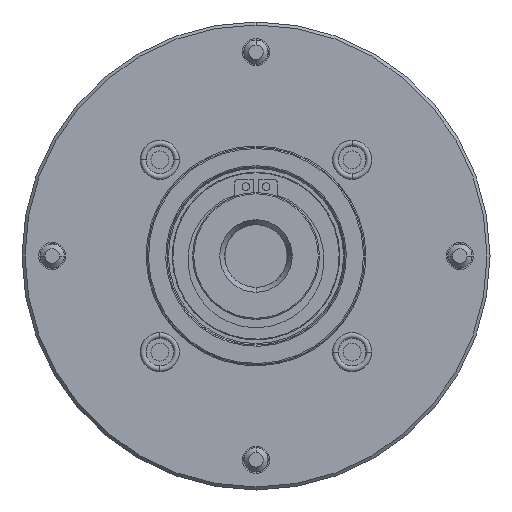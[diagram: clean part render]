
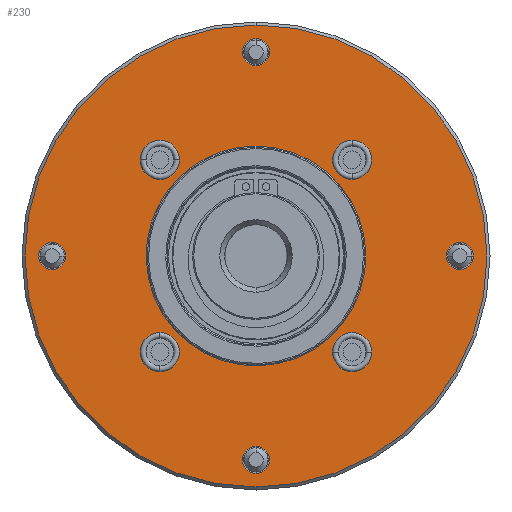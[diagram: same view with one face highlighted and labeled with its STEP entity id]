
A CAD part, front view. The second image highlights one B-rep face of the part: STEP entity #230.
In plain terms, the highlighted planar face has unit normal (0, -1, 0).
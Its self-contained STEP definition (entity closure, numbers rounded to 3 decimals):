
#16=CARTESIAN_POINT('',(0.0,2.5,36.4));
#17=VERTEX_POINT('',#16);
#18=CARTESIAN_POINT('',(34.618,2.5,-11.248));
#19=VERTEX_POINT('',#18);
#20=CARTESIAN_POINT('',(0.0,2.5,0.0));
#21=DIRECTION('',(0.0,1.0,0.0));
#22=DIRECTION('',(0.0,0.0,1.0));
#23=AXIS2_PLACEMENT_3D('',#20,#21,#22);
#24=CIRCLE('',#23,36.4);
#25=EDGE_CURVE('no 625',#17,#19,#24,.T.);
#26=ORIENTED_EDGE('',*,*,#25,.T.);
#27=CARTESIAN_POINT('',(-34.618,2.5,11.248));
#28=VERTEX_POINT('',#27);
#29=CARTESIAN_POINT('',(0.0,2.5,0.0));
#30=DIRECTION('',(0.0,1.0,0.0));
#31=DIRECTION('',(0.0,0.0,1.0));
#32=AXIS2_PLACEMENT_3D('',#29,#30,#31);
#33=CIRCLE('',#32,36.4);
#34=EDGE_CURVE('no 631',#19,#28,#33,.T.);
#35=ORIENTED_EDGE('',*,*,#34,.T.);
#36=CARTESIAN_POINT('',(0.0,2.5,0.0));
#37=DIRECTION('',(0.0,1.0,0.0));
#38=DIRECTION('',(0.0,0.0,1.0));
#39=AXIS2_PLACEMENT_3D('',#36,#37,#38);
#40=CIRCLE('',#39,36.4);
#41=EDGE_CURVE('no 635',#28,#17,#40,.T.);
#42=ORIENTED_EDGE('',*,*,#41,.T.);
#43=EDGE_LOOP('',(#26,#35,#42));
#44=FACE_BOUND('',#43,.T.);
#45=CARTESIAN_POINT('',(0.0,2.5,76.5));
#46=VERTEX_POINT('',#45);
#47=CARTESIAN_POINT('',(0.0,2.5,-76.5));
#48=VERTEX_POINT('',#47);
#49=CARTESIAN_POINT('',(0.0,2.5,0.0));
#50=DIRECTION('',(0.0,-1.0,0.0));
#51=DIRECTION('',(0.0,0.0,1.0));
#52=AXIS2_PLACEMENT_3D('',#49,#50,#51);
#53=CIRCLE('',#52,76.5);
#54=EDGE_CURVE('no 644',#46,#48,#53,.T.);
#55=ORIENTED_EDGE('',*,*,#54,.T.);
#56=CARTESIAN_POINT('',(0.0,2.5,0.0));
#57=DIRECTION('',(0.0,-1.0,0.0));
#58=DIRECTION('',(0.0,0.0,1.0));
#59=AXIS2_PLACEMENT_3D('',#56,#57,#58);
#60=CIRCLE('',#59,76.5);
#61=EDGE_CURVE('no 648',#48,#46,#60,.T.);
#62=ORIENTED_EDGE('',*,*,#61,.T.);
#63=EDGE_LOOP('',(#55,#62));
#64=FACE_OUTER_BOUND('',#63,.T.);
#65=CARTESIAN_POINT('',(-31.82,2.5,-25.32));
#66=VERTEX_POINT('',#65);
#67=CARTESIAN_POINT('',(-31.82,2.5,-38.32));
#68=VERTEX_POINT('',#67);
#69=CARTESIAN_POINT('',(-31.82,2.5,-31.82));
#70=DIRECTION('',(0.0,-1.0,0.0));
#71=DIRECTION('',(0.0,0.0,-1.0));
#72=AXIS2_PLACEMENT_3D('',#69,#70,#71);
#73=CIRCLE('',#72,6.5);
#74=EDGE_CURVE('no 657',#66,#68,#73,.T.);
#75=ORIENTED_EDGE('',*,*,#74,.F.);
#76=CARTESIAN_POINT('',(-31.82,2.5,-31.82));
#77=DIRECTION('',(0.0,-1.0,0.0));
#78=DIRECTION('',(0.0,0.0,-1.0));
#79=AXIS2_PLACEMENT_3D('',#76,#77,#78);
#80=CIRCLE('',#79,6.5);
#81=EDGE_CURVE('no 661',#68,#66,#80,.T.);
#82=ORIENTED_EDGE('',*,*,#81,.F.);
#83=EDGE_LOOP('',(#75,#82));
#84=FACE_BOUND('',#83,.T.);
#85=CARTESIAN_POINT('',(-31.82,2.5,38.32));
#86=VERTEX_POINT('',#85);
#87=CARTESIAN_POINT('',(-31.82,2.5,25.32));
#88=VERTEX_POINT('',#87);
#89=CARTESIAN_POINT('',(-31.82,2.5,31.82));
#90=DIRECTION('',(0.0,-1.0,0.0));
#91=DIRECTION('',(0.0,0.0,-1.0));
#92=AXIS2_PLACEMENT_3D('',#89,#90,#91);
#93=CIRCLE('',#92,6.5);
#94=EDGE_CURVE('no 670',#86,#88,#93,.T.);
#95=ORIENTED_EDGE('',*,*,#94,.F.);
#96=CARTESIAN_POINT('',(-31.82,2.5,31.82));
#97=DIRECTION('',(0.0,-1.0,0.0));
#98=DIRECTION('',(0.0,0.0,-1.0));
#99=AXIS2_PLACEMENT_3D('',#96,#97,#98);
#100=CIRCLE('',#99,6.5);
#101=EDGE_CURVE('no 674',#88,#86,#100,.T.);
#102=ORIENTED_EDGE('',*,*,#101,.F.);
#103=EDGE_LOOP('',(#95,#102));
#104=FACE_BOUND('',#103,.T.);
#105=CARTESIAN_POINT('',(31.82,2.5,38.32));
#106=VERTEX_POINT('',#105);
#107=CARTESIAN_POINT('',(31.82,2.5,25.32));
#108=VERTEX_POINT('',#107);
#109=CARTESIAN_POINT('',(31.82,2.5,31.82));
#110=DIRECTION('',(0.0,-1.0,0.0));
#111=DIRECTION('',(0.0,0.0,-1.0));
#112=AXIS2_PLACEMENT_3D('',#109,#110,#111);
#113=CIRCLE('',#112,6.5);
#114=EDGE_CURVE('no 683',#106,#108,#113,.T.);
#115=ORIENTED_EDGE('',*,*,#114,.F.);
#116=CARTESIAN_POINT('',(31.82,2.5,31.82));
#117=DIRECTION('',(0.0,-1.0,0.0));
#118=DIRECTION('',(0.0,0.0,-1.0));
#119=AXIS2_PLACEMENT_3D('',#116,#117,#118);
#120=CIRCLE('',#119,6.5);
#121=EDGE_CURVE('no 687',#108,#106,#120,.T.);
#122=ORIENTED_EDGE('',*,*,#121,.F.);
#123=EDGE_LOOP('',(#115,#122));
#124=FACE_BOUND('',#123,.T.);
#125=CARTESIAN_POINT('',(-67.5,2.5,4.5));
#126=VERTEX_POINT('',#125);
#127=CARTESIAN_POINT('',(-67.5,2.5,-4.5));
#128=VERTEX_POINT('',#127);
#129=CARTESIAN_POINT('',(-67.5,2.5,0.0));
#130=DIRECTION('',(0.0,-1.0,0.0));
#131=DIRECTION('',(0.0,0.0,-1.0));
#132=AXIS2_PLACEMENT_3D('',#129,#130,#131);
#133=CIRCLE('',#132,4.5);
#134=EDGE_CURVE('no 696',#126,#128,#133,.T.);
#135=ORIENTED_EDGE('',*,*,#134,.F.);
#136=CARTESIAN_POINT('',(-67.5,2.5,0.0));
#137=DIRECTION('',(0.0,-1.0,0.0));
#138=DIRECTION('',(0.0,0.0,-1.0));
#139=AXIS2_PLACEMENT_3D('',#136,#137,#138);
#140=CIRCLE('',#139,4.5);
#141=EDGE_CURVE('no 700',#128,#126,#140,.T.);
#142=ORIENTED_EDGE('',*,*,#141,.F.);
#143=EDGE_LOOP('',(#135,#142));
#144=FACE_BOUND('',#143,.T.);
#145=CARTESIAN_POINT('',(0.0,2.5,72.0));
#146=VERTEX_POINT('',#145);
#147=CARTESIAN_POINT('',(0.0,2.5,63.0));
#148=VERTEX_POINT('',#147);
#149=CARTESIAN_POINT('',(0.0,2.5,67.5));
#150=DIRECTION('',(0.0,-1.0,0.0));
#151=DIRECTION('',(0.0,0.0,-1.0));
#152=AXIS2_PLACEMENT_3D('',#149,#150,#151);
#153=CIRCLE('',#152,4.5);
#154=EDGE_CURVE('no 709',#146,#148,#153,.T.);
#155=ORIENTED_EDGE('',*,*,#154,.F.);
#156=CARTESIAN_POINT('',(0.0,2.5,67.5));
#157=DIRECTION('',(0.0,-1.0,0.0));
#158=DIRECTION('',(0.0,0.0,-1.0));
#159=AXIS2_PLACEMENT_3D('',#156,#157,#158);
#160=CIRCLE('',#159,4.5);
#161=EDGE_CURVE('no 713',#148,#146,#160,.T.);
#162=ORIENTED_EDGE('',*,*,#161,.F.);
#163=EDGE_LOOP('',(#155,#162));
#164=FACE_BOUND('',#163,.T.);
#165=CARTESIAN_POINT('',(0.0,2.5,-63.0));
#166=VERTEX_POINT('',#165);
#167=CARTESIAN_POINT('',(0.0,2.5,-72.0));
#168=VERTEX_POINT('',#167);
#169=CARTESIAN_POINT('',(0.0,2.5,-67.5));
#170=DIRECTION('',(0.0,-1.0,0.0));
#171=DIRECTION('',(0.0,0.0,-1.0));
#172=AXIS2_PLACEMENT_3D('',#169,#170,#171);
#173=CIRCLE('',#172,4.5);
#174=EDGE_CURVE('no 722',#166,#168,#173,.T.);
#175=ORIENTED_EDGE('',*,*,#174,.F.);
#176=CARTESIAN_POINT('',(0.0,2.5,-67.5));
#177=DIRECTION('',(0.0,-1.0,0.0));
#178=DIRECTION('',(0.0,0.0,-1.0));
#179=AXIS2_PLACEMENT_3D('',#176,#177,#178);
#180=CIRCLE('',#179,4.5);
#181=EDGE_CURVE('no 726',#168,#166,#180,.T.);
#182=ORIENTED_EDGE('',*,*,#181,.F.);
#183=EDGE_LOOP('',(#175,#182));
#184=FACE_BOUND('',#183,.T.);
#185=CARTESIAN_POINT('',(67.5,2.5,4.5));
#186=VERTEX_POINT('',#185);
#187=CARTESIAN_POINT('',(67.5,2.5,-4.5));
#188=VERTEX_POINT('',#187);
#189=CARTESIAN_POINT('',(67.5,2.5,0.0));
#190=DIRECTION('',(0.0,-1.0,0.0));
#191=DIRECTION('',(0.0,0.0,-1.0));
#192=AXIS2_PLACEMENT_3D('',#189,#190,#191);
#193=CIRCLE('',#192,4.5);
#194=EDGE_CURVE('no 735',#186,#188,#193,.T.);
#195=ORIENTED_EDGE('',*,*,#194,.F.);
#196=CARTESIAN_POINT('',(67.5,2.5,0.0));
#197=DIRECTION('',(0.0,-1.0,0.0));
#198=DIRECTION('',(0.0,0.0,-1.0));
#199=AXIS2_PLACEMENT_3D('',#196,#197,#198);
#200=CIRCLE('',#199,4.5);
#201=EDGE_CURVE('no 739',#188,#186,#200,.T.);
#202=ORIENTED_EDGE('',*,*,#201,.F.);
#203=EDGE_LOOP('',(#195,#202));
#204=FACE_BOUND('',#203,.T.);
#205=CARTESIAN_POINT('',(31.82,2.5,-25.32));
#206=VERTEX_POINT('',#205);
#207=CARTESIAN_POINT('',(31.82,2.5,-38.32));
#208=VERTEX_POINT('',#207);
#209=CARTESIAN_POINT('',(31.82,2.5,-31.82));
#210=DIRECTION('',(0.0,-1.0,0.0));
#211=DIRECTION('',(0.0,0.0,-1.0));
#212=AXIS2_PLACEMENT_3D('',#209,#210,#211);
#213=CIRCLE('',#212,6.5);
#214=EDGE_CURVE('no 748',#206,#208,#213,.T.);
#215=ORIENTED_EDGE('',*,*,#214,.F.);
#216=CARTESIAN_POINT('',(31.82,2.5,-31.82));
#217=DIRECTION('',(0.0,-1.0,0.0));
#218=DIRECTION('',(0.0,0.0,-1.0));
#219=AXIS2_PLACEMENT_3D('',#216,#217,#218);
#220=CIRCLE('',#219,6.5);
#221=EDGE_CURVE('no 752',#208,#206,#220,.T.);
#222=ORIENTED_EDGE('',*,*,#221,.F.);
#223=EDGE_LOOP('',(#215,#222));
#224=FACE_BOUND('',#223,.T.);
#225=CARTESIAN_POINT('',(-36.0,2.5,0.0));
#226=DIRECTION('',(0.0,1.0,0.0));
#227=DIRECTION('',(0.0,0.0,1.0));
#228=AXIS2_PLACEMENT_3D('',#225,#226,#227);
#229=PLANE('',#228);
#230=ADVANCED_FACE('no 616',(#44,#64,#84,#104,#124,#144,#164,#184,#204,#224),#229,.F.);
